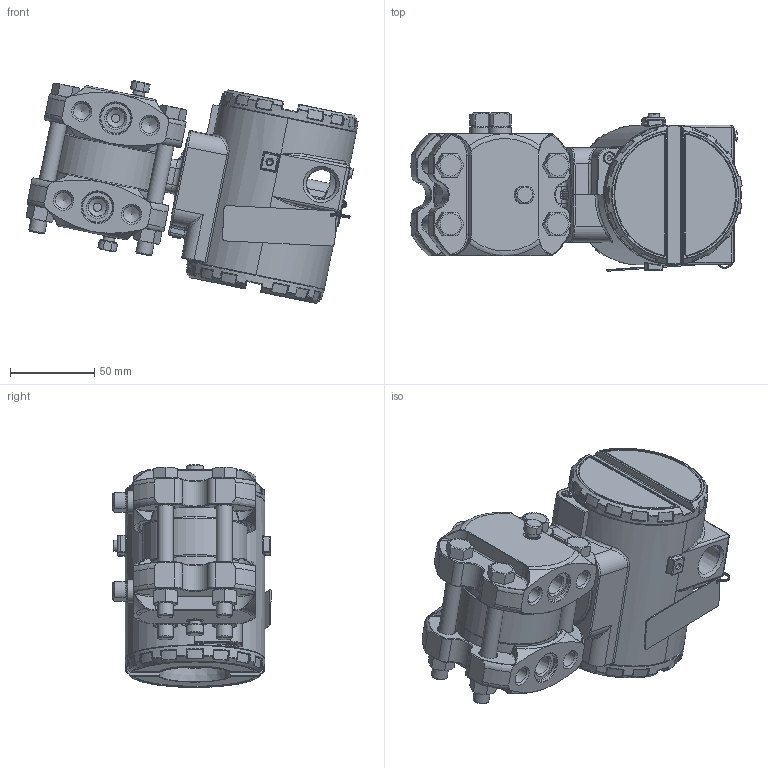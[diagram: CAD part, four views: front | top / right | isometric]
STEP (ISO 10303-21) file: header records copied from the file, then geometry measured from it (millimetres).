
FILE_DESCRIPTION(/* description */ (''),/* implementation_level */ '2;1');
FILE_NAME(/* name */ 'F:\Area\Desenvolvimento_2\Projects\Sensor\projetos\LD30X\montagens 3d - clientes\LD30XH0-3 1-4NPT Monel purga acima.stp',/* time_stamp */ '2023-01-26T11:58:18-03:00',/* author */ ('inventor02'),/* organization */ (''),/* preprocessor_version */ 'ST-DEVELOPER v17',/* originating_system */ 'Autodesk Inventor 2019',/* authorisation */ '');
FILE_SCHEMA (('CONFIG_CONTROL_DESIGN'));
Products named in the file (29): LD30Xh0-3 1-4NPT Monel purga acima; diferencial FX0-3 monel purga acima; involucro fx0-3 apos a usinagem final; bujao 1-4NPT; 081-C-0500-10 monel barra 7-16 purga M8; Paraf. 3-8 x 16 UNC; Porca 3-8 x 16 UNC; Sangria; carcaça vazia com tampas e plaqueta; carcaça LD inox sem letras; Subconjunto plaqueta 300; Plaqueta transmissor; Parafuso da Plaqueta; Rebite da Plaqueta; 096-A-0169-03; 101-A-0502-01; Chapa aterramento externo; ISO 1207 - M4 x 8; DIN 915 - M6 x 10; ANSI B18.3.1M - M4x0,7 x 8; Subconjunto tampa com visor aluminio; tampa pintada; VIDRO DO VISOR; oring 41x1 vidro tampa; Trava do vidro da tampa com visor; trava do vidro VH256; Subconjunto tampa sem visor-aluminio; tampa cega 300 pintada p0; 00034775-0
Assembly tree (39 placements, depth 4):
  LD30Xh0-3 1-4NPT Monel purga acima
    diferencial FX0-3 monel purga acima
      involucro fx0-3 apos a usinagem final
      bujao 1-4NPT  x2
      081-C-0500-10 monel barra 7-16 purga M8  x2
      Paraf. 3-8 x 16 UNC  x4
      Porca 3-8 x 16 UNC  x4
      Sangria  x2
    carcaça vazia com tampas e plaqueta
      carcaça LD inox sem letras
      Subconjunto plaqueta 300
        Plaqueta transmissor
        Parafuso da Plaqueta
        Rebite da Plaqueta
        096-A-0169-03
        101-A-0502-01
      Chapa aterramento externo
      ISO 1207 - M4 x 8
      DIN 915 - M6 x 10
      ANSI B18.3.1M - M4x0,7 x 8  x2
      Subconjunto tampa com visor aluminio
        tampa pintada
        VIDRO DO VISOR
        oring 41x1 vidro tampa
        Trava do vidro da tampa com visor
        trava do vidro VH256
        00034775-0
      Subconjunto tampa sem visor-aluminio
        tampa cega 300 pintada p0
        00034775-0
Bounding box: 197.48 x 94.1 x 132.5 mm (x, y, z)
Volume: 636683.8 mm3; surface area: 236075.2 mm2
Topology: 34 solids, 34 shells, 2266 faces, 5509 edges, 3279 vertices
Faces by surface type: bspline 591, cylinder 499, plane 450, torus 350, cone 273, sphere 103
Full cylindrical faces by diameter (mm): 2 x2, 2.1 x2, 2.459 x5, 2.642 x1, 2.7 x1, 3 x5, 3.242 x4, 3.5 x4, 3.571 x1, 4 x4, 4.3 x1, 4.4 x1, 4.917 x1, 5 x4, 5.5 x2, 6 x2, 6.647 x2, 7 x6, 7.087 x2, 7.6 x2, 7.798 x4, 8 x2, 8.7 x2, 9.525 x4, 9.728 x8, 10.5 x8, 10.719 x4, 12 x2, 13.8 x2, 14 x1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
Entity records: 71570 total; most frequent: CARTESIAN_POINT 28046, ORIENTED_EDGE 9116, DIRECTION 8680, EDGE_CURVE 4558, AXIS2_PLACEMENT_3D 3815, VERTEX_POINT 2725, CIRCLE 2255, EDGE_LOOP 2019
